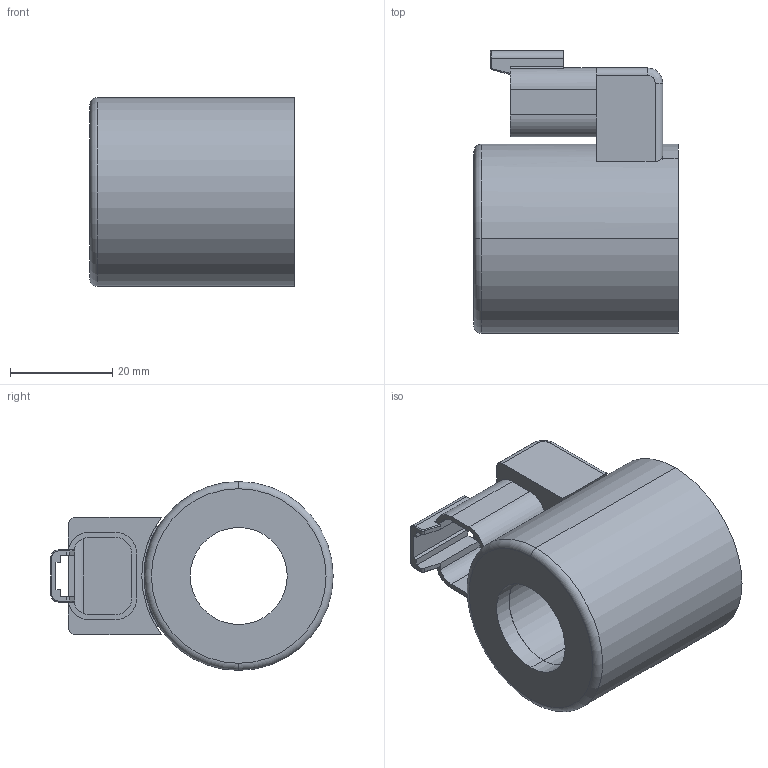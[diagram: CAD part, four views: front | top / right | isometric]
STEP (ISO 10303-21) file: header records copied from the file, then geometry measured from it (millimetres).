
FILE_DESCRIPTION (( 'STEP AP203' ), '1' );
FILE_NAME ('VGE37_19x40.step', '2013-07-08T06:43:48', ( 'Wandfluh AG' ), ( 'Wandfluh AG' ), 'SwSTEP 2.0', 'SolidWorks 2012', '' );
FILE_SCHEMA (( 'CONFIG_CONTROL_DESIGN' ));
Length unit declared in the file: millimetre
Products named in the file (1): VGE37_19x40
Bounding box: 40 x 55.31 x 37 mm (x, y, z)
Surface area: 19668.4 mm2 (no closed solid volume)
Topology: 0 solids, 6 shells, 96 faces, 266 edges, 171 vertices
Faces by surface type: cylinder 42, plane 38, bspline 10, cone 4, torus 2
Entity records: 3354 total; most frequent: CARTESIAN_POINT 847, DIRECTION 524, ORIENTED_EDGE 489, EDGE_CURVE 266, AXIS2_PLACEMENT_3D 190, VERTEX_POINT 171, VECTOR 144, LINE 144
